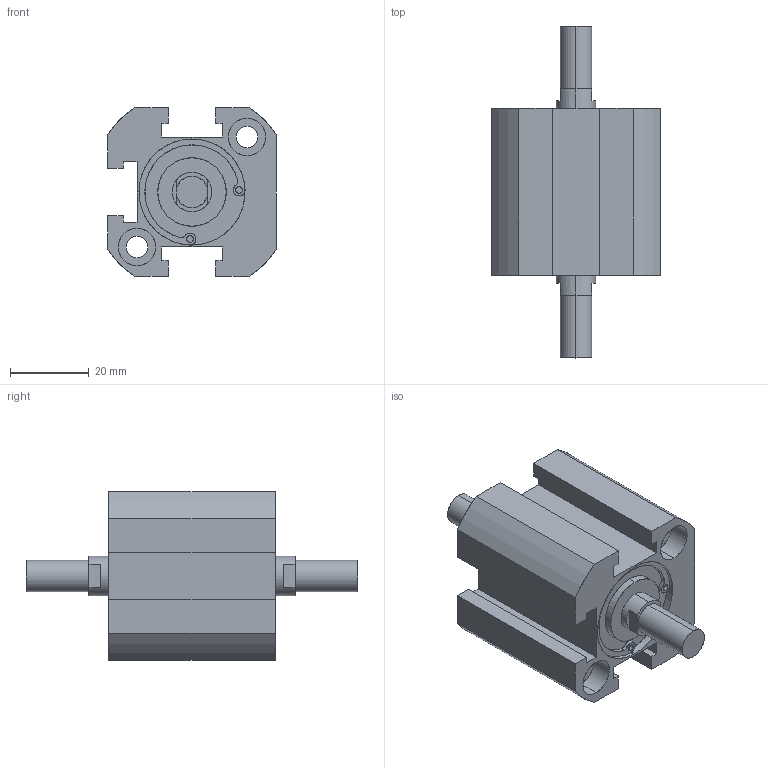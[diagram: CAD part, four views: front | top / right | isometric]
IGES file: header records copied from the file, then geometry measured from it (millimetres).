
Start section: SolidWorks IGES file using analytic representation for surfaces
Global section: file name: C:\Users\Toshiba\Desktop\XG#M7-25D-10.IGS; native system: SolidWorks 2014; preprocessor: SolidWorks 2014; author: Toshiba; date: 160524.102304; units: millimetre
Bounding box: 43 x 84.5 x 43 mm (x, y, z)
Surface area: 16057.7 mm2 (no closed solid volume)
Topology: 0 solids, 0 shells, 127 faces, 1962 edges, 1958 vertices
Faces by surface type: revolution 69, bspline 58
